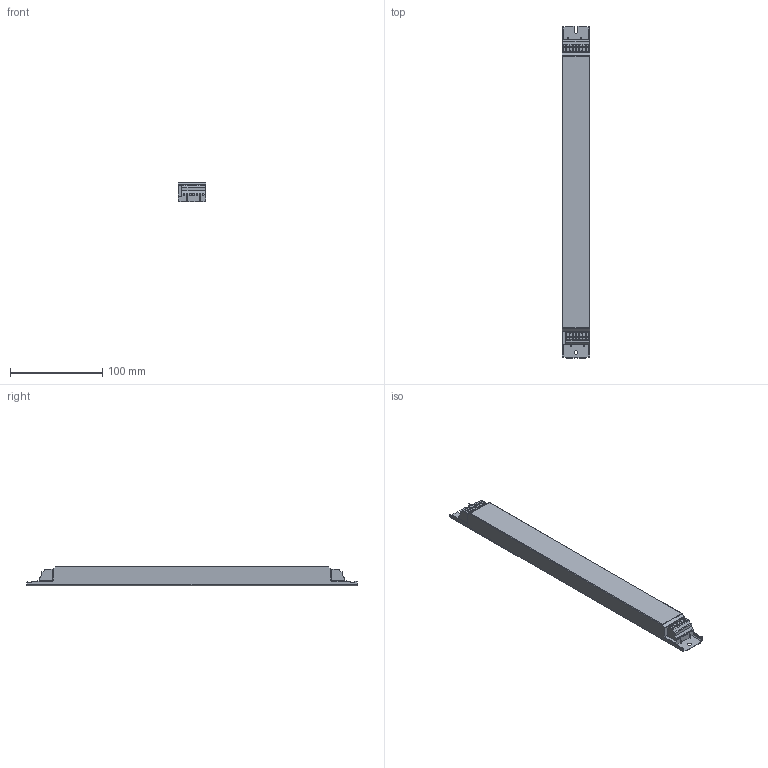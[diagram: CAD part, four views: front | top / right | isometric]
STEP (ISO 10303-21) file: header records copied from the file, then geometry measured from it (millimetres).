
FILE_DESCRIPTION((''),'2;1');
FILE_NAME('15007362Z','2012-12-10T',('juergen.hrach'),(''),'PRO/ENGINEER BY PARAMETRIC TECHNOLOGY CORPORATION, 2011310','PRO/ENGINEER BY PARAMETRIC TECHNOLOGY CORPORATION, 2011310','');
FILE_SCHEMA(('AUTOMOTIVE_DESIGN { 1 2 10303 214 0 1 1 1 }'));
Length unit declared in the file: millimetre
Products named in the file (1): 15007362Z
Bounding box: 30 x 360 x 21 mm (x, y, z)
Volume: 201942.6 mm3; surface area: 37349.2 mm2
Topology: 1 solids, 1 shells, 378 faces, 1121 edges, 746 vertices
Faces by surface type: plane 273, cylinder 105
Entity records: 16529 total; most frequent: CARTESIAN_POINT 2383, ORIENTED_EDGE 2242, DIRECTION 2045, PRESENTATION_STYLE_ASSIGNMENT 1155, STYLED_ITEM 1122, CURVE_STYLE 1121, EDGE_CURVE 1121, VECTOR 877
